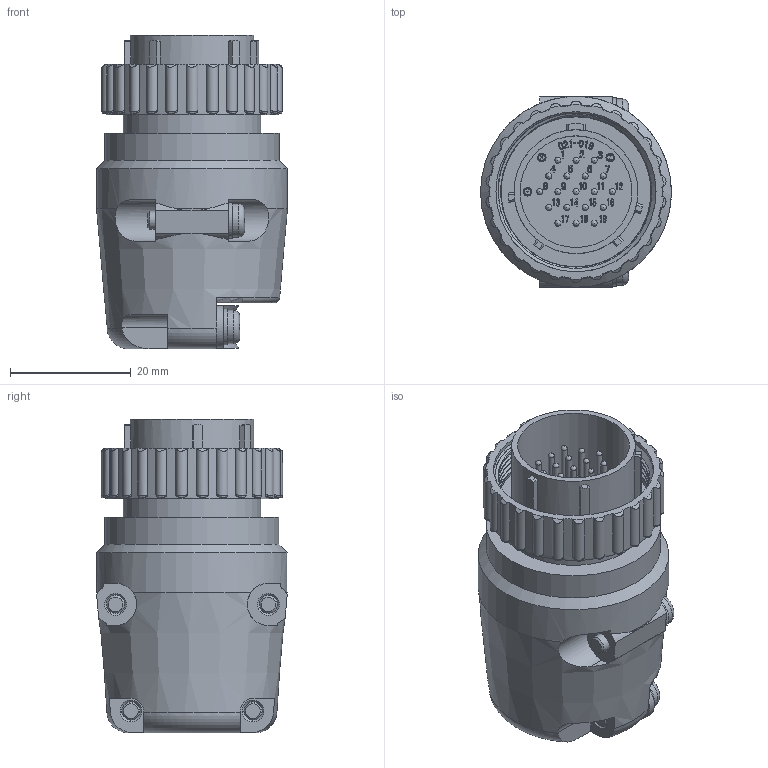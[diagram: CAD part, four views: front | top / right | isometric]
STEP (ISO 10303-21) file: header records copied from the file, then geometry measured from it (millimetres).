
FILE_DESCRIPTION (( 'STEP AP203' ), '1' );
FILE_NAME ('JMSP2119MM-D.STEP', '2021-07-07T06:27:50', ( '' ), ( '' ), 'SwSTEP 2.0', 'SolidWorks 2018', '' );
FILE_SCHEMA (( 'CONFIG_CONTROL_DESIGN' ));
Length unit declared in the file: millimetre
Products named in the file (1): JMSP2119MM-D
Bounding box: 31.6 x 31.57 x 51.9 mm (x, y, z)
Volume: 15686.2 mm3; surface area: 14027.9 mm2
Topology: 1 solids, 1 shells, 1917 faces, 5257 edges, 3467 vertices
Faces by surface type: plane 825, bspline 745, cylinder 243, cone 67, sphere 19, torus 18
Full cylindrical faces by diameter (mm): 1 x19, 1.1 x22, 1.2 x1, 1.4 x4, 1.55 x19, 3 x4, 5.5 x4, 15.2 x1, 18.1 x1, 18.5 x1, 20.1 x1, 20.5 x1, 22.7 x1, 22.8 x1, 24.8 x1, 26.1 x1, 26.2 x1, 26.5 x1, 28.5 x1, 28.8 x1, 31.6 x1
Entity records: 88343 total; most frequent: CARTESIAN_POINT 46097, ORIENTED_EDGE 10060, DIRECTION 6104, EDGE_CURVE 5030, VERTEX_POINT 3387, LINE 2704, VECTOR 2704, EDGE_LOOP 2191
